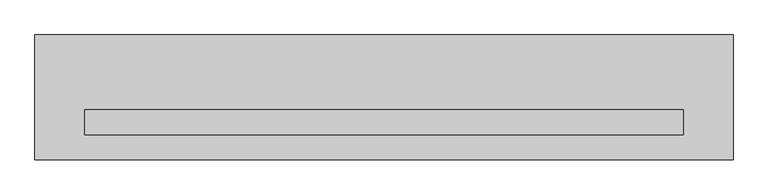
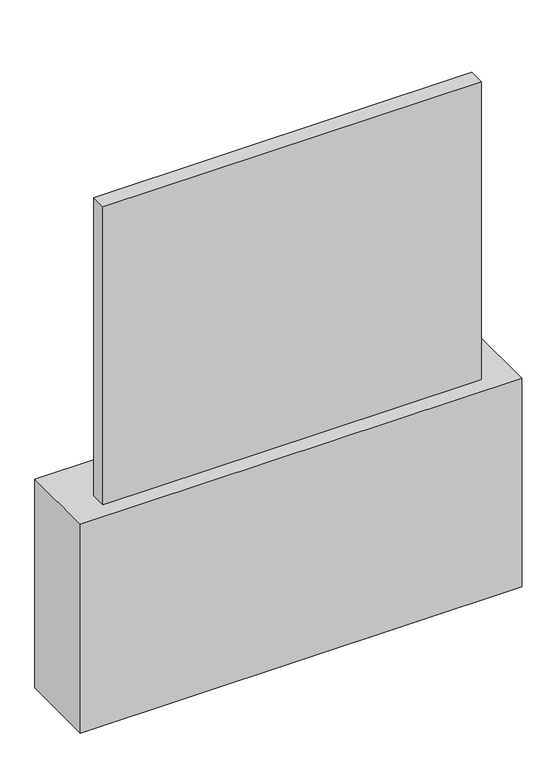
"""IFC4 building model written with IfcOpenShell, lengths in millimetres: furniture geometry, Fu_трюмо_LEG : 1400Х250."""

from ifc_helpers import new_model, si_unit, frame, origin, origin_with_axes, place, context, project, spatial, polyline, outline, extrude, source, transform, mapped, element, save


def furniture_0a480fd8(model_context):
    return source(origin(), model_context, "Body", "SweptSolid", [
        extrude(outline(polyline([(1300.0, 100.0), (1300.0, 50.0), (100.0, 50.0), (100.0, 100.0), (1300.0, 100.0)])), frame((0.0, 0.0, 700.0), z_axis=(0.0, 0.0, 1.0), x_axis=(1.0, 0.0, 0.0)), (0.0, 0.0, 1.0), 1000.0),
        extrude(outline(polyline([(1400.0, 0.0), (0.0, 0.0), (0.0, 250.0), (1400.0, 250.0), (1400.0, 0.0)])), origin_with_axes(), (0.0, 0.0, 1.0), 700.0),
    ])


if __name__ == "__main__":
    model = new_model("IFC4")
    model_context = context("Model", 3, world=origin())
    ifc_project = project(units=[si_unit("LENGTHUNIT", "METRE", prefix="MILLI")], contexts=[model_context])
    site = spatial("IfcSite", under=ifc_project)
    building = spatial("IfcBuilding", under=site)
    placement = place(None, origin())
    furniture_shape = furniture_0a480fd8(model_context)
    element("IfcFurniture", 1, ObjectType="Fu_трюмо_LEG : 1400Х250", at=placement, inside=building, context=model_context, shape_type="MappedRepresentation", body=[
        mapped(furniture_shape, transform((0.0, 0.0, 0.0), x_axis=(1.0, 0.0, 0.0), y_axis=(0.0, 1.0, 0.0), z_axis=(0.0, 0.0, 1.0))),
    ])
    save(model, "model.ifc")
